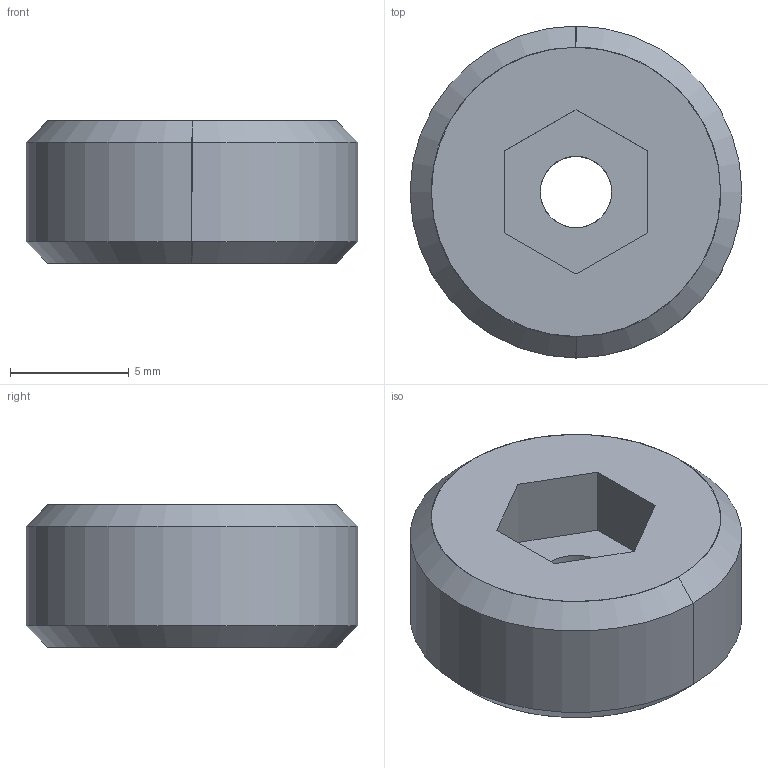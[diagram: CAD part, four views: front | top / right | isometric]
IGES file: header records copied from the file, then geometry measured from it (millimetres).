
Global section: file name: E:\UnigraphicsGraphicData\MISUMI_PRESS-PARTS\IGES\3d_mswsh14-6_00470_r00.igs; native system: NX V5.0; preprocessor: UGS NX IGES V5.0; author: MISUMI; date: 20110105.161526; units: millimetre
Bounding box: 14 x 14 x 6 mm (x, y, z)
Surface area: 600.5 mm2 (no closed solid volume)
Topology: 0 solids, 0 shells, 17 faces, 100 edges, 100 vertices
Faces by surface type: bspline 17
